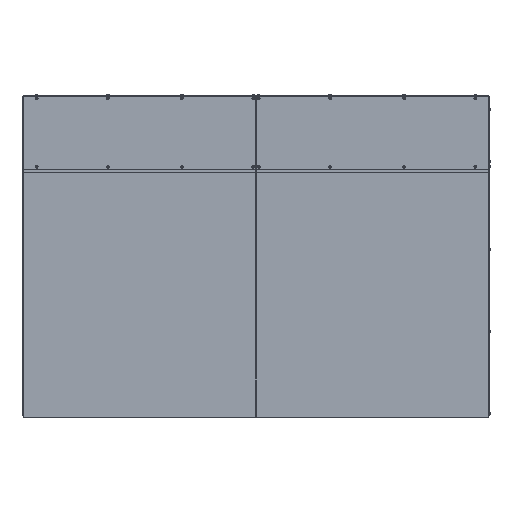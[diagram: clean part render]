
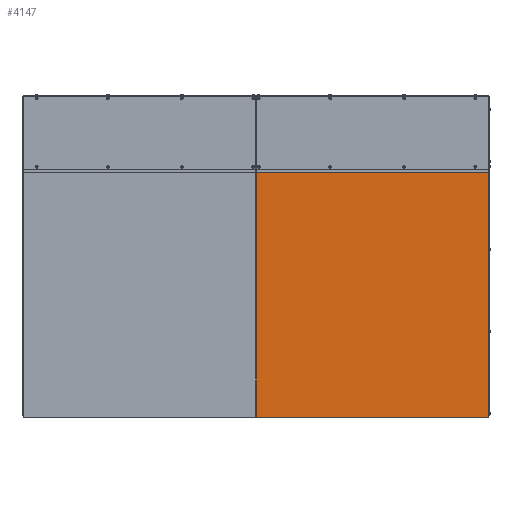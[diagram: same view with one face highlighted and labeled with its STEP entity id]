
A CAD part, top view. The second image highlights one B-rep face of the part: STEP entity #4147.
In plain terms, the highlighted planar face has unit normal (0, 0, 1).
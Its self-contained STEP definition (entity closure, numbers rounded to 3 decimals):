
#4147=ADVANCED_FACE('',(#6153),#67740,.T.);
#6153=FACE_OUTER_BOUND('',#8391,.T.);
#8391=EDGE_LOOP('',(#18182,#18183,#18184,#18185));
#18182=ORIENTED_EDGE('',*,*,#50537,.F.);
#18183=ORIENTED_EDGE('',*,*,#50541,.F.);
#18184=ORIENTED_EDGE('',*,*,#50544,.F.);
#18185=ORIENTED_EDGE('',*,*,#50546,.F.);
#30793=PCURVE('',#67735,#40641);
#30797=PCURVE('',#67736,#40645);
#30801=PCURVE('',#67737,#40649);
#30805=PCURVE('',#67738,#40653);
#30811=PCURVE('',#67740,#40659);
#30812=PCURVE('',#67740,#40660);
#30813=PCURVE('',#67740,#40661);
#30814=PCURVE('',#67740,#40662);
#40641=DEFINITIONAL_REPRESENTATION('',(#62490),#136343);
#40645=DEFINITIONAL_REPRESENTATION('',(#62498),#136343);
#40649=DEFINITIONAL_REPRESENTATION('',(#62505),#136343);
#40653=DEFINITIONAL_REPRESENTATION('',(#62511),#136343);
#40659=DEFINITIONAL_REPRESENTATION('',(#62517),#136343);
#40660=DEFINITIONAL_REPRESENTATION('',(#62518),#136343);
#40661=DEFINITIONAL_REPRESENTATION('',(#62519),#136343);
#40662=DEFINITIONAL_REPRESENTATION('',(#62520),#136343);
#45613=SURFACE_CURVE('',#62489,(#30793,#30811),.PCURVE_S1.);
#45617=SURFACE_CURVE('',#62497,(#30797,#30812),.PCURVE_S1.);
#45620=SURFACE_CURVE('',#62504,(#30801,#30813),.PCURVE_S1.);
#45622=SURFACE_CURVE('',#62510,(#30805,#30814),.PCURVE_S1.);
#50537=EDGE_CURVE('',#65779,#65780,#45613,.T.);
#50541=EDGE_CURVE('',#65782,#65779,#45617,.T.);
#50544=EDGE_CURVE('',#65784,#65782,#45620,.T.);
#50546=EDGE_CURVE('',#65780,#65784,#45622,.T.);
#62489=B_SPLINE_CURVE_WITH_KNOTS('',1,(#136019,#136020),.UNSPECIFIED.,.F.,
 .F.,(2,2),(-848.,0.),.UNSPECIFIED.);
#62490=B_SPLINE_CURVE_WITH_KNOTS('',1,(#136021,#136022),.UNSPECIFIED.,.F.,
 .F.,(2,2),(-848.,0.),.UNSPECIFIED.);
#62497=B_SPLINE_CURVE_WITH_KNOTS('',1,(#136035,#136036),.UNSPECIFIED.,.F.,
 .F.,(2,2),(-1769.,-848.),.UNSPECIFIED.);
#62498=B_SPLINE_CURVE_WITH_KNOTS('',1,(#136037,#136038),.UNSPECIFIED.,.F.,
 .F.,(2,2),(-1769.,-848.),.UNSPECIFIED.);
#62504=B_SPLINE_CURVE_WITH_KNOTS('',1,(#136049,#136050),.UNSPECIFIED.,.F.,
 .F.,(2,2),(-2617.,-1769.),.UNSPECIFIED.);
#62505=B_SPLINE_CURVE_WITH_KNOTS('',1,(#136051,#136052),.UNSPECIFIED.,.F.,
 .F.,(2,2),(-2617.,-1769.),.UNSPECIFIED.);
#62510=B_SPLINE_CURVE_WITH_KNOTS('',1,(#136061,#136062),.UNSPECIFIED.,.F.,
 .F.,(2,2),(-3538.,-2617.),.UNSPECIFIED.);
#62511=B_SPLINE_CURVE_WITH_KNOTS('',1,(#136063,#136064),.UNSPECIFIED.,.F.,
 .F.,(2,2),(-3538.,-2617.),.UNSPECIFIED.);
#62517=B_SPLINE_CURVE_WITH_KNOTS('',1,(#136075,#136076),.UNSPECIFIED.,.F.,
 .F.,(2,2),(-848.,0.),.UNSPECIFIED.);
#62518=B_SPLINE_CURVE_WITH_KNOTS('',1,(#136077,#136078),.UNSPECIFIED.,.F.,
 .F.,(2,2),(-1769.,-848.),.UNSPECIFIED.);
#62519=B_SPLINE_CURVE_WITH_KNOTS('',1,(#136079,#136080),.UNSPECIFIED.,.F.,
 .F.,(2,2),(-2617.,-1769.),.UNSPECIFIED.);
#62520=B_SPLINE_CURVE_WITH_KNOTS('',1,(#136081,#136082),.UNSPECIFIED.,.F.,
 .F.,(2,2),(-3538.,-2617.),.UNSPECIFIED.);
#65779=VERTEX_POINT('',#136005);
#65780=VERTEX_POINT('',#136006);
#65782=VERTEX_POINT('',#136008);
#65784=VERTEX_POINT('',#136010);
#67735=PLANE('',#69303);
#67736=PLANE('',#69304);
#67737=PLANE('',#69305);
#67738=PLANE('',#69306);
#67740=PLANE('',#69308);
#69303=AXIS2_PLACEMENT_3D('',#135997,#70821,$);
#69304=AXIS2_PLACEMENT_3D('',#135998,#70822,$);
#69305=AXIS2_PLACEMENT_3D('',#135999,#70823,$);
#69306=AXIS2_PLACEMENT_3D('',#136000,#70824,$);
#69308=AXIS2_PLACEMENT_3D('',#136002,#70826,$);
#70821=DIRECTION('',(0.,-1.,0.));
#70822=DIRECTION('',(1.,0.,0.));
#70823=DIRECTION('',(0.,1.,0.));
#70824=DIRECTION('',(-1.,0.,0.));
#70826=DIRECTION('',(0.,0.,1.));
#135997=CARTESIAN_POINT('',(1.,-588.,180.));
#135998=CARTESIAN_POINT('',(848.,-588.,180.));
#135999=CARTESIAN_POINT('',(848.,304.,180.));
#136000=CARTESIAN_POINT('',(1.,304.,180.));
#136002=CARTESIAN_POINT('',(1.,-588.,183.));
#136005=CARTESIAN_POINT('',(848.,-588.,183.));
#136006=CARTESIAN_POINT('',(1.,-588.,183.));
#136008=CARTESIAN_POINT('',(848.,304.,183.));
#136010=CARTESIAN_POINT('',(1.,304.,183.));
#136019=CARTESIAN_POINT('',(848.,-588.,183.));
#136020=CARTESIAN_POINT('',(1.,-588.,183.));
#136021=CARTESIAN_POINT('',(848.,3.));
#136022=CARTESIAN_POINT('',(0.,3.));
#136035=CARTESIAN_POINT('',(848.,304.,183.));
#136036=CARTESIAN_POINT('',(848.,-588.,183.));
#136037=CARTESIAN_POINT('',(1769.,3.));
#136038=CARTESIAN_POINT('',(848.,3.));
#136049=CARTESIAN_POINT('',(1.,304.,183.));
#136050=CARTESIAN_POINT('',(848.,304.,183.));
#136051=CARTESIAN_POINT('',(2617.,3.));
#136052=CARTESIAN_POINT('',(1769.,3.));
#136061=CARTESIAN_POINT('',(1.,-588.,183.));
#136062=CARTESIAN_POINT('',(1.,304.,183.));
#136063=CARTESIAN_POINT('',(3538.,3.));
#136064=CARTESIAN_POINT('',(2617.,3.));
#136075=CARTESIAN_POINT('',(847.,0.));
#136076=CARTESIAN_POINT('',(0.,0.));
#136077=CARTESIAN_POINT('',(847.,892.));
#136078=CARTESIAN_POINT('',(847.,0.));
#136079=CARTESIAN_POINT('',(0.,892.));
#136080=CARTESIAN_POINT('',(847.,892.));
#136081=CARTESIAN_POINT('',(0.,0.));
#136082=CARTESIAN_POINT('',(0.,892.));
#136343=(
GEOMETRIC_REPRESENTATION_CONTEXT(2)
PARAMETRIC_REPRESENTATION_CONTEXT()
REPRESENTATION_CONTEXT('pspace','')
);
